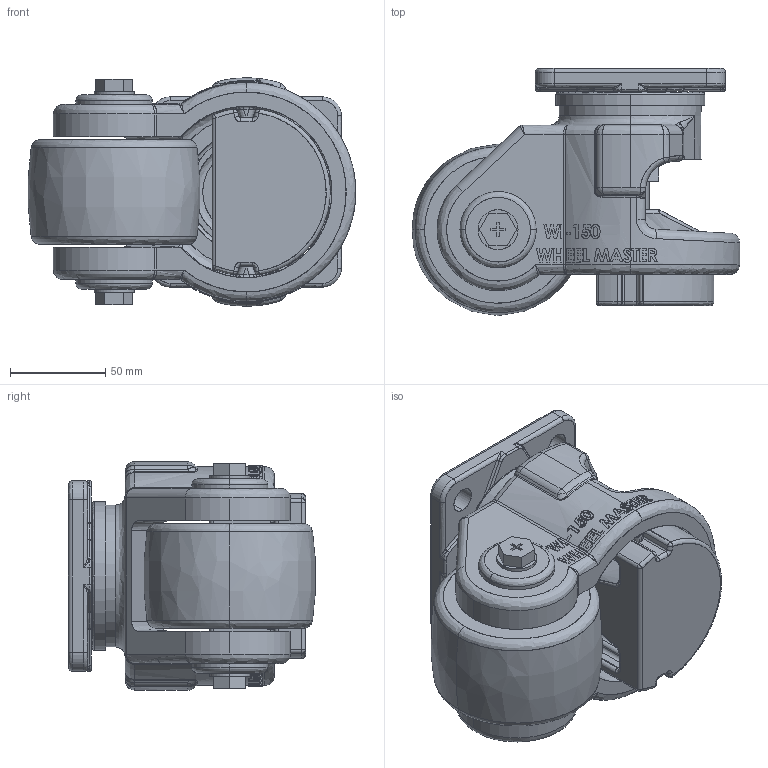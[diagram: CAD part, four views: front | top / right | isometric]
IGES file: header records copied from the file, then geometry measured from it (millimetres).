
Start section: SolidWorks IGES file using analytic representation for surfaces
Bounding box: 172.06 x 129.81 x 120 mm (x, y, z)
Surface area: 169682 mm2 (no closed solid volume)
Topology: 0 solids, 0 shells, 1181 faces, 12714 edges, 12648 vertices
Faces by surface type: bspline 799, revolution 382
